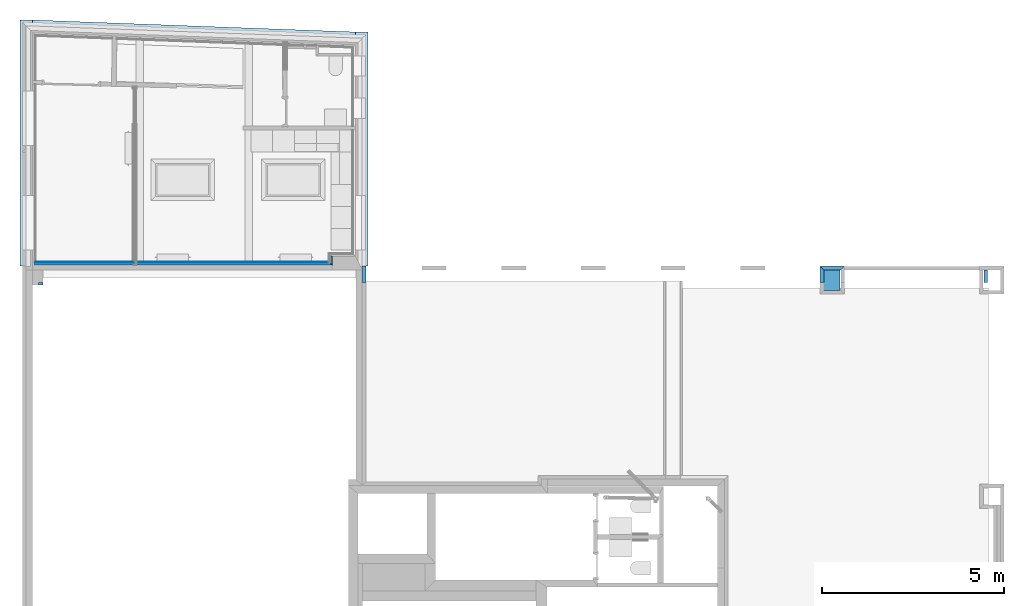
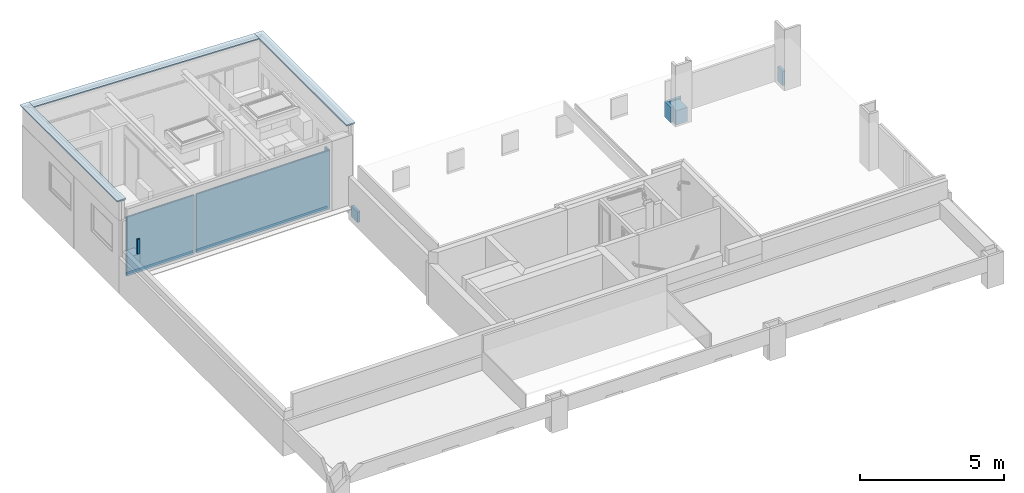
# One storey, part 6 of 22: 7 building element parts, 6 walls, 3 roofs, 3 elements without a shape of their own.
"""IFC2X3 building model written with IfcOpenShell, lengths in metres."""

from ifc_helpers import new_model, entity, si_unit, converted_unit, derived_unit, money_unit, direction, frame, frame_2d, origin_with_axes, place, context, subcontext, project, spatial, polyline, rectangle, outline, extrude, material, layer, layer_set, layer_usage, type_object, element, aggregate, save


model = new_model("IFC2X3")

# Units and contexts
model_context = context("Model", 3, precision=1e-05, world=origin_with_axes(), true_north=direction((0.0, 1.0)))
body_context = subcontext(model_context, "Body", "Model", "MODEL_VIEW", scale=1.0)
ifc_project = project(units=[si_unit("LENGTHUNIT", "METRE"), si_unit("AREAUNIT", "SQUARE_METRE"), si_unit("VOLUMEUNIT", "CUBIC_METRE"), si_unit("ABSORBEDDOSEUNIT", "GRAY"), si_unit("AMOUNTOFSUBSTANCEUNIT", "MOLE"), si_unit("DOSEEQUIVALENTUNIT", "SIEVERT"), si_unit("ELECTRICCAPACITANCEUNIT", "FARAD"), si_unit("ELECTRICCHARGEUNIT", "COULOMB"), si_unit("ELECTRICCONDUCTANCEUNIT", "SIEMENS"), si_unit("ELECTRICCURRENTUNIT", "AMPERE"), si_unit("ELECTRICRESISTANCEUNIT", "OHM"), si_unit("ELECTRICVOLTAGEUNIT", "VOLT"), si_unit("ENERGYUNIT", "JOULE"), si_unit("FORCEUNIT", "NEWTON"), si_unit("FREQUENCYUNIT", "HERTZ"), si_unit("ILLUMINANCEUNIT", "LUX"), si_unit("INDUCTANCEUNIT", "HENRY"), si_unit("LUMINOUSFLUXUNIT", "LUMEN"), si_unit("LUMINOUSINTENSITYUNIT", "CANDELA"), si_unit("MAGNETICFLUXDENSITYUNIT", "TESLA"), si_unit("MAGNETICFLUXUNIT", "WEBER"), si_unit("MASSUNIT", "GRAM"), converted_unit("PLANEANGLEUNIT", "degree", entity("IfcReal", 0.0174532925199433), si_unit("PLANEANGLEUNIT", "RADIAN"), dimensions=[0, 0, 0, 0, 0, 0, 0]), si_unit("POWERUNIT", "WATT"), si_unit("PRESSUREUNIT", "PASCAL"), si_unit("RADIOACTIVITYUNIT", "BECQUEREL"), si_unit("SOLIDANGLEUNIT", "STERADIAN"), si_unit("THERMODYNAMICTEMPERATUREUNIT", "KELVIN"), si_unit("TIMEUNIT", "SECOND"), derived_unit("ACCELERATIONUNIT", [(si_unit("LENGTHUNIT", "METRE"), 1), (si_unit("TIMEUNIT", "SECOND"), -2)]), derived_unit("ANGULARVELOCITYUNIT", [(converted_unit("PLANEANGLEUNIT", "degree", entity("IfcReal", 0.0174532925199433), si_unit("PLANEANGLEUNIT", "RADIAN"), dimensions=[0, 0, 0, 0, 0, 0, 0]), 1), (si_unit("TIMEUNIT", "SECOND"), -1)]), derived_unit("CURVATUREUNIT", [(converted_unit("PLANEANGLEUNIT", "degree", entity("IfcReal", 0.0174532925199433), si_unit("PLANEANGLEUNIT", "RADIAN"), dimensions=[0, 0, 0, 0, 0, 0, 0]), 1), (si_unit("LENGTHUNIT", "METRE"), -1)]), derived_unit("DYNAMICVISCOSITYUNIT", [(si_unit("PRESSUREUNIT", "PASCAL"), 1), (si_unit("TIMEUNIT", "SECOND"), 1)]), derived_unit("HEATFLUXDENSITYUNIT", [(si_unit("POWERUNIT", "WATT"), 1), (si_unit("LENGTHUNIT", "METRE"), -2)]), derived_unit("HEATINGVALUEUNIT", [(si_unit("ENERGYUNIT", "JOULE"), 1), (si_unit("MASSUNIT", "GRAM"), -1)]), derived_unit("INTEGERCOUNTRATEUNIT", [(si_unit("TIMEUNIT", "SECOND"), -1)]), derived_unit("IONCONCENTRATIONUNIT", [(si_unit("MASSUNIT", "GRAM"), 1), (si_unit("VOLUMEUNIT", "CUBIC_METRE"), -1)]), derived_unit("ISOTHERMALMOISTURECAPACITYUNIT", [(si_unit("VOLUMEUNIT", "CUBIC_METRE"), 1), (si_unit("MASSUNIT", "GRAM"), -1)]), derived_unit("KINEMATICVISCOSITYUNIT", [(si_unit("AREAUNIT", "SQUARE_METRE"), 1), (si_unit("TIMEUNIT", "SECOND"), -1)]), derived_unit("LINEARFORCEUNIT", [(si_unit("FORCEUNIT", "NEWTON"), 1), (si_unit("LENGTHUNIT", "METRE"), -1)]), derived_unit("LINEARMOMENTUNIT", [(si_unit("FORCEUNIT", "NEWTON"), 1), (si_unit("LENGTHUNIT", "METRE"), -1)]), derived_unit("LINEARSTIFFNESSUNIT", [(si_unit("FORCEUNIT", "NEWTON"), 1), (si_unit("LENGTHUNIT", "METRE"), -1)]), derived_unit("LINEARVELOCITYUNIT", [(si_unit("LENGTHUNIT", "METRE"), 1), (si_unit("TIMEUNIT", "SECOND"), -1)]), derived_unit("LUMINOUSINTENSITYDISTRIBUTIONUNIT", [(si_unit("LUMINOUSINTENSITYUNIT", "CANDELA"), 1), (si_unit("LUMINOUSFLUXUNIT", "LUMEN"), -1)]), derived_unit("MASSDENSITYUNIT", [(si_unit("MASSUNIT", "GRAM"), 1), (si_unit("VOLUMEUNIT", "CUBIC_METRE"), -1)]), derived_unit("MASSFLOWRATEUNIT", [(si_unit("MASSUNIT", "GRAM"), 1), (si_unit("TIMEUNIT", "SECOND"), -1)]), derived_unit("MASSPERLENGTHUNIT", [(si_unit("MASSUNIT", "GRAM"), 1), (si_unit("LENGTHUNIT", "METRE"), -1)]), derived_unit("MODULUSOFELASTICITYUNIT", [(si_unit("FORCEUNIT", "NEWTON"), 1), (si_unit("AREAUNIT", "SQUARE_METRE"), -1)]), derived_unit("MODULUSOFLINEARSUBGRADEREACTIONUNIT", [(si_unit("FORCEUNIT", "NEWTON"), 1), (si_unit("LENGTHUNIT", "METRE"), -2)]), derived_unit("MODULUSOFROTATIONALSUBGRADEREACTIONUNIT", [(si_unit("FORCEUNIT", "NEWTON"), 1), (si_unit("LENGTHUNIT", "METRE"), 1)]), derived_unit("MODULUSOFSUBGRADEREACTIONUNIT", [(si_unit("FORCEUNIT", "NEWTON"), 1), (si_unit("VOLUMEUNIT", "CUBIC_METRE"), -1)]), derived_unit("MOISTUREDIFFUSIVITYUNIT", [(si_unit("VOLUMEUNIT", "CUBIC_METRE"), 1), (si_unit("TIMEUNIT", "SECOND"), -1)]), derived_unit("MOLECULARWEIGHTUNIT", [(si_unit("MASSUNIT", "GRAM"), 1), (si_unit("AMOUNTOFSUBSTANCEUNIT", "MOLE"), -1)]), derived_unit("PLANARFORCEUNIT", [(si_unit("FORCEUNIT", "NEWTON"), 1), (si_unit("LENGTHUNIT", "METRE"), -2)]), derived_unit("ROTATIONALFREQUENCYUNIT", [(si_unit("TIMEUNIT", "SECOND"), -1)]), derived_unit("ROTATIONALMASSUNIT", [(si_unit("MASSUNIT", "GRAM"), 1), (si_unit("LENGTHUNIT", "METRE"), 2)]), derived_unit("ROTATIONALSTIFFNESSUNIT", [(si_unit("FORCEUNIT", "NEWTON"), 1), (si_unit("LENGTHUNIT", "METRE"), 1), (converted_unit("PLANEANGLEUNIT", "degree", entity("IfcReal", 0.0174532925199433), si_unit("PLANEANGLEUNIT", "RADIAN"), dimensions=[0, 0, 0, 0, 0, 0, 0]), -1)]), derived_unit("SECTIONAREAINTEGRALUNIT", [(si_unit("LENGTHUNIT", "METRE"), 5)]), derived_unit("SECTIONMODULUSUNIT", [(si_unit("LENGTHUNIT", "METRE"), 3)]), derived_unit("SHEARMODULUSUNIT", [(si_unit("FORCEUNIT", "NEWTON"), 1), (si_unit("AREAUNIT", "SQUARE_METRE"), -1)]), derived_unit("SOUNDPOWERUNIT", [(si_unit("ENERGYUNIT", "JOULE"), 1), (si_unit("TIMEUNIT", "SECOND"), -1)]), derived_unit("SPECIFICHEATCAPACITYUNIT", [(si_unit("FORCEUNIT", "NEWTON"), 1), (si_unit("MASSUNIT", "GRAM"), -1), (si_unit("THERMODYNAMICTEMPERATUREUNIT", "KELVIN"), -1)]), derived_unit("TEMPERATUREGRADIENTUNIT", [(si_unit("THERMODYNAMICTEMPERATUREUNIT", "KELVIN"), 1), (si_unit("LENGTHUNIT", "METRE"), -1)]), derived_unit("THERMALADMITTANCEUNIT", [(si_unit("POWERUNIT", "WATT"), 1), (si_unit("AREAUNIT", "SQUARE_METRE"), -1), (si_unit("THERMODYNAMICTEMPERATUREUNIT", "KELVIN"), -1)]), derived_unit("THERMALCONDUCTANCEUNIT", [(si_unit("POWERUNIT", "WATT"), 1), (si_unit("LENGTHUNIT", "METRE"), -1), (si_unit("THERMODYNAMICTEMPERATUREUNIT", "KELVIN"), -1)]), derived_unit("THERMALEXPANSIONCOEFFICIENTUNIT", [(si_unit("THERMODYNAMICTEMPERATUREUNIT", "KELVIN"), -1)]), derived_unit("THERMALRESISTANCEUNIT", [(si_unit("AREAUNIT", "SQUARE_METRE"), 1), (si_unit("POWERUNIT", "WATT"), -1)]), derived_unit("THERMALTRANSMITTANCEUNIT", [(si_unit("POWERUNIT", "WATT"), 1), (si_unit("AREAUNIT", "SQUARE_METRE"), -1), (si_unit("THERMODYNAMICTEMPERATUREUNIT", "KELVIN"), -1)]), derived_unit("TORQUEUNIT", [(si_unit("FORCEUNIT", "NEWTON"), 1), (si_unit("LENGTHUNIT", "METRE"), 1)]), derived_unit("VAPORPERMEABILITYUNIT", [(si_unit("MASSUNIT", "GRAM"), 1), (si_unit("TIMEUNIT", "SECOND"), -1)]), derived_unit("VOLUMETRICFLOWRATEUNIT", [(si_unit("VOLUMEUNIT", "CUBIC_METRE"), 1), (si_unit("TIMEUNIT", "SECOND"), -1)]), derived_unit("WARPINGCONSTANTUNIT", [(si_unit("LENGTHUNIT", "METRE"), 6)]), derived_unit("WARPINGMOMENTUNIT", [(si_unit("FORCEUNIT", "NEWTON"), 1), (si_unit("LENGTHUNIT", "METRE"), 2)]), money_unit("GBP")], contexts=[model_context])

# Site, building, storey
site_placement = place(None, origin_with_axes())
site = spatial("IfcSite", under=ifc_project, at=site_placement, Name="Site", CompositionType="ELEMENT")
building_placement = place(site_placement, origin_with_axes())
building = spatial("IfcBuilding", under=site, at=building_placement, Name="Building01", CompositionType="ELEMENT")
storey_placement = place(building_placement, frame((0.0, 0.0, 2.6), z_axis=(0.0, 0.0, 1.0), x_axis=(1.0, 0.0, 0.0)))
storey = spatial("IfcBuildingStorey", under=building, at=storey_placement, Name="MF", CompositionType="ELEMENT", Elevation=2.6)

# Walls
ifc_material_1 = material(Name="A_BSUK_WallsExternal_Brick")
ifc_layer_1 = layer(ifc_material_1, 0.1, ventilated=False)
ifc_layer_set_1 = layer_set([ifc_layer_1])
ifc_layer_usage_1 = layer_usage(ifc_layer_set_1, "AXIS2", "POSITIVE", 0.0)
wall_type_1 = type_object("IfcWallType", Name="A-Walls-ExternalBrick", PredefinedType="NOTDEFINED")
wall_1_placement = place(storey_placement, frame((22.6, 14.897172, -0.16), z_axis=(0.0, 0.0, 1.0), x_axis=(-1.0, 0.0, 0.0)))
element("IfcWallStandardCase", 1, at=wall_1_placement, inside=storey, type_object=wall_type_1, material=ifc_layer_usage_1, Name="A-Walls-ExternalBrick", ObjectType="A-Walls-ExternalBrick", context=body_context, shape_type="SweptSolid", body=[
    extrude(outline(polyline([(0.569994, 0.1), (0.100006, 0.1), (0.0, 0.0), (0.67, 0.0), (0.569994, 0.1)])), origin_with_axes(), (0.0, 0.0, 1.0), 0.659759),
])
wall_2_placement = place(storey_placement, frame((26.42974, 14.449011, -0.16), z_axis=(0.0, 0.0, 1.0), x_axis=(-5.782e-05, 1.0, 0.0)))
element("IfcWallStandardCase", 2, at=wall_2_placement, inside=storey, type_object=wall_type_1, material=ifc_layer_usage_1, Name="A-Walls-ExternalBrick", ObjectType="A-Walls-ExternalBrick", context=body_context, shape_type="SweptSolid", body=[
    extrude(outline(polyline([(0.350989, 0.0), (0.0, 0.0), (0.0, -0.1), (0.350983, -0.1), (0.350989, 0.0)])), origin_with_axes(), (0.0, 0.0, 1.0), 0.61),
])
wall_3_placement = place(storey_placement, frame((21.930026, 14.449011, -0.16), z_axis=(0.0, 0.0, 1.0), x_axis=(-5.782e-05, 1.0, 0.0)))
element("IfcWallStandardCase", 3, at=wall_3_placement, inside=storey, type_object=wall_type_1, material=ifc_layer_usage_1, Name="A-Walls-ExternalBrick", ObjectType="A-Walls-ExternalBrick", context=body_context, shape_type="SweptSolid", body=[
    extrude(outline(polyline([(0.448161, 0.0), (0.0, 0.0), (0.0, -0.1), (0.348155, -0.1), (0.448161, 0.0)])), origin_with_axes(), (0.0, 0.0, 1.0), 0.659759),
])
ifc_material_2 = material(Name="A_BSUK_WallsExternal_Block")
ifc_layer_2 = layer(ifc_material_2, 0.454, ventilated=False)
ifc_layer_set_2 = layer_set([ifc_layer_2])
ifc_layer_usage_2 = layer_usage(ifc_layer_set_2, "AXIS2", "POSITIVE", 0.0)
wall_type_2 = type_object("IfcWallType", Name="A-Walls-ExternalBlock", PredefinedType="NOTDEFINED")
wall_4_placement = place(storey_placement, frame((22.018156, 14.797172, -0.16), z_axis=(0.0, 0.0, 1.0), x_axis=(0.0, -1.0, 0.0)))
element("IfcWallStandardCase", 4, at=wall_4_placement, inside=storey, type_object=wall_type_2, material=ifc_layer_usage_2, Name="A-Walls-ExternalBlock", ObjectType="A-Walls-ExternalBlock", context=body_context, shape_type="SweptSolid", body=[
    extrude(rectangle(XDim=0.562876, YDim=0.454, at=frame_2d((0.281438, 0.227), x_axis=(-1.0, 0.0))), origin_with_axes(), (0.0, 0.0, 1.0), 0.61),
])
ifc_layer_3 = layer(ifc_material_2, 0.115702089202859, ventilated=False)
ifc_layer_set_3 = layer_set([ifc_layer_3])
ifc_layer_usage_3 = layer_usage(ifc_layer_set_3, "AXIS2", "POSITIVE", 0.0)
wall_5_placement = place(storey_placement, frame((0.565702, 14.389942, 1.8), z_axis=(0.0, 0.0, 1.0), x_axis=(0.0, 1.0, 0.0)))
element("IfcWallStandardCase", 5, at=wall_5_placement, inside=storey, type_object=wall_type_2, material=ifc_layer_usage_3, Name="A-Walls-ExternalBlock", ObjectType="A-Walls-ExternalBlock", context=body_context, shape_type="SweptSolid", body=[
    extrude(rectangle(XDim=0.060058, YDim=0.115702, at=frame_2d((0.030029, 0.057851), x_axis=(1.0, 0.0))), origin_with_axes(), (0.0, 0.0, 1.0), 0.63),
])
wall_type_3 = type_object("IfcWallType", Name="A-Walls-ExternalBrick", PredefinedType="NOTDEFINED")
wall_6_placement = place(storey_placement, frame((9.443038, 14.449999, 0.0), z_axis=(0.0, 1.0, 0.0), x_axis=(0.0, 0.0, 1.0)))
element("IfcWall", 6, at=wall_6_placement, inside=storey, type_object=wall_type_3, material=ifc_material_1, Name="A-Walls-ExternalBrick", ObjectType="A-Walls-ExternalBrick", context=body_context, shape_type="SweptSolid", body=[
    extrude(rectangle(XDim=0.449998, YDim=0.1, at=frame_2d((0.224999, -0.05), x_axis=(1.0, 0.0))), frame((0.0, 0.0, 0.0), z_axis=(-3.51e-06, 0.0, 1.0), x_axis=(1.0, 0.0, 3.51e-06)), (3.51e-06, 0.0, 1.0), 0.451043),
])

# Roofs
ifc_material_3 = material(Name="A_BSUK_Roofs")
roof_1_placement = place(storey_placement, frame((-0.062, 14.9, 3.885), z_axis=(1.0, 0.0, 0.0), x_axis=(0.0, 1.0, 0.0)))
element("IfcRoof", 7, at=roof_1_placement, inside=storey, material=ifc_material_3, Name="A-ZeeProfile01", ObjectType="A-ZeeProfile01", ShapeType="FREEFORM", context=body_context, shape_type="SweptSolid", body=[
    extrude(rectangle(XDim=6.7669, YDim=0.05, at=frame_2d((3.38345, 0.025), x_axis=(1.0, 0.0))), origin_with_axes(), (0.0, 0.0, 1.0), 0.35),
])
roof_2_placement = place(storey_placement, frame((0.288, 21.6669, 3.885), z_axis=(-0.03707143, -0.99931262, 0.0), x_axis=(0.99931262, -0.03707143, 0.0)))
element("IfcRoof", 8, at=roof_2_placement, inside=storey, material=ifc_material_3, Name="A-ZeeProfile01", ObjectType="A-ZeeProfile01", ShapeType="FREEFORM", context=body_context, shape_type="SweptSolid", body=[
    extrude(rectangle(XDim=8.887352, YDim=0.05, at=frame_2d((4.443676, 0.025), x_axis=(1.0, 0.0))), origin_with_axes(), (0.0, 0.0, 1.0), 0.35),
])
roof_3_placement = place(storey_placement, frame((9.505901, 14.9, 3.935), z_axis=(-1.0, 0.0, 0.0), x_axis=(0.0, 1.0, 0.0)))
element("IfcRoof", 9, at=roof_3_placement, inside=storey, material=ifc_material_3, Name="A-ZeeProfile01", ObjectType="A-ZeeProfile01", ShapeType="FREEFORM", context=body_context, shape_type="SweptSolid", body=[
    extrude(rectangle(XDim=6.437433, YDim=0.05, at=frame_2d((3.218716, 0.025), x_axis=(1.0, 0.0))), origin_with_axes(), (0.0, 0.0, 1.0), 0.35),
])

# Wall, building element parts
wall_type_4 = type_object("IfcWallType", Name="SHE_A-Walls_Type06c_ExternalWallInsulation_60mm", PredefinedType="NOTDEFINED")
wall_7_placement = place(storey_placement, frame((0.340777, 14.93, 0.585), z_axis=(0.0, 0.0, 1.0), x_axis=(1.0, 0.0, 0.0)))
wall_7 = element("IfcWall", 10, at=wall_7_placement, inside=storey, type_object=wall_type_4, Name="6C", ObjectType="SHE_A-Walls_Type06c_ExternalWallInsulation_60mm")
ifc_material_4 = material(Name="A_BSUK_Insulation")
placement_1 = place(wall_7_placement, origin_with_axes())
building_element_part_1 = element("IfcBuildingElementPart", 11, at=placement_1, material=ifc_material_4, Name="1", context=body_context, shape_type="SweptSolid", body=[
    extrude(rectangle(XDim=0.06, YDim=2.716637, at=frame_2d((1.358319, 0.03), x_axis=(0.0, -1.0))), origin_with_axes(), (0.0, 0.0, 1.0), 2.5),
])
ifc_material_5 = material(Name="A_BSUK_WallInternal_Finishes_Plasterboard")
building_element_part_2 = element("IfcBuildingElementPart", 12, at=placement_1, material=ifc_material_5, Name="2", context=body_context, shape_type="SweptSolid", body=[
    extrude(rectangle(XDim=0.013, YDim=2.717637, at=frame_2d((1.357819, 0.0655), x_axis=(0.0, -1.0))), origin_with_axes(), (0.0, 0.0, 1.0), 2.5),
])
ifc_material_6 = material(Name="A_BSUK_Walls_Timber")
building_element_part_3 = element("IfcBuildingElementPart", 13, at=placement_1, material=ifc_material_6, Name="3", context=body_context, shape_type="SweptSolid", body=[
    extrude(rectangle(XDim=2.674637, YDim=0.015, at=frame_2d((1.364319, 0.0795), x_axis=(-1.0, 0.0))), frame((0.0, 0.0, 0.015), z_axis=(0.0, 0.0, 1.0), x_axis=(1.0, 0.0, 0.0)), (0.0, 0.0, 1.0), 0.1),
])
aggregate(wall_7, [building_element_part_1, building_element_part_2, building_element_part_3])

wall_8_placement = place(storey_placement, frame((3.137414, 14.93, 0.585), z_axis=(0.0, 0.0, 1.0), x_axis=(1.0, 0.0, 0.0)))
wall_8 = element("IfcWall", 14, at=wall_8_placement, inside=storey, type_object=wall_type_4, Name="6C", ObjectType="SHE_A-Walls_Type06c_ExternalWallInsulation_60mm")
placement_2 = place(wall_8_placement, origin_with_axes())
building_element_part_4 = element("IfcBuildingElementPart", 15, at=placement_2, material=ifc_material_4, Name="1", context=body_context, shape_type="SweptSolid", body=[
    extrude(outline(polyline([(5.319479, 0.06), (0.0, 0.06), (0.0, 0.0), (5.379479, 0.0), (5.319479, 0.06)])), origin_with_axes(), (0.0, 0.0, 1.0), 2.5),
])
building_element_part_5 = element("IfcBuildingElementPart", 16, at=placement_2, material=ifc_material_5, Name="2", context=body_context, shape_type="SweptSolid", body=[
    extrude(outline(polyline([(5.307479, 0.072), (0.0, 0.072), (0.0, 0.059), (5.320479, 0.059), (5.307479, 0.072)])), origin_with_axes(), (0.0, 0.0, 1.0), 2.5),
])
building_element_part_6 = element("IfcBuildingElementPart", 17, at=placement_2, material=ifc_material_6, Name="3", context=body_context, shape_type="SweptSolid", body=[
    extrude(outline(polyline([(5.292479, 0.087), (0.015, 0.087), (0.015, 0.072), (5.307479, 0.072), (5.292479, 0.087)])), frame((0.0, 0.0, 0.015), z_axis=(0.0, 0.0, 1.0), x_axis=(1.0, 0.0, 0.0)), (0.0, 0.0, 1.0), 0.1),
])
aggregate(wall_8, [building_element_part_4, building_element_part_5, building_element_part_6])

# Wall, building element part
wall_9_placement = place(storey_placement, frame((8.516893, 14.93, 0.585), z_axis=(0.0, 0.0, 1.0), x_axis=(0.0, 1.0, 0.0)))
wall_9 = element("IfcWall", 18, at=wall_9_placement, inside=storey, type_object=wall_type_4, Name="6C", ObjectType="SHE_A-Walls_Type06c_ExternalWallInsulation_60mm")
building_element_part_7_placement = place(wall_9_placement, origin_with_axes())
building_element_part_7 = element("IfcBuildingElementPart", 19, at=building_element_part_7_placement, material=ifc_material_4, Name="1", context=body_context, shape_type="SweptSolid", body=[
    extrude(outline(polyline([(0.298, 0.06), (0.06, 0.06), (0.0, 0.0), (0.238, 0.0), (0.298, 0.06)])), origin_with_axes(), (0.0, 0.0, 1.0), 2.5),
])
aggregate(wall_9, [building_element_part_7])

save(model, "model.ifc")
